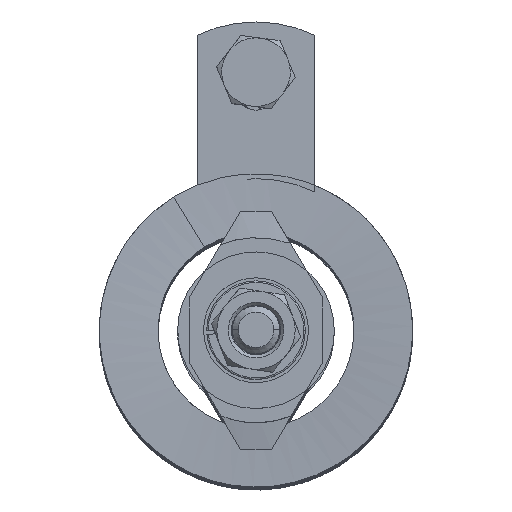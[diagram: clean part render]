
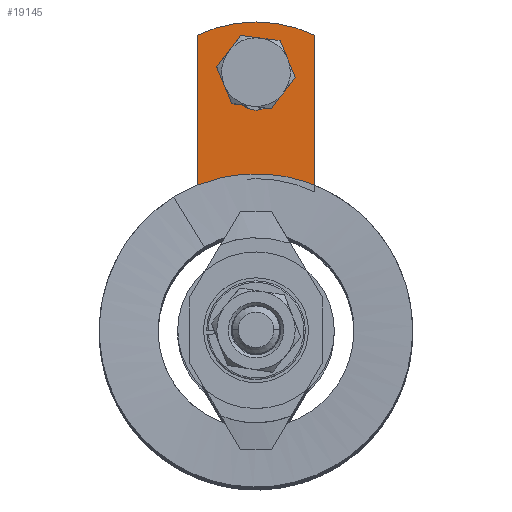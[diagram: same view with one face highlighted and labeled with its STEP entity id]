
A CAD part, top view. The second image highlights one B-rep face of the part: STEP entity #19145.
In plain terms, the highlighted planar face has unit normal (0, 0, 1).
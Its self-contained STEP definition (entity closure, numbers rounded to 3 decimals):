
#9021 = EDGE_LOOP ( 'NONE', ( #15793, #15791, #15789, #15884, #15876, #15878 ) ) ;
#15789 = ORIENTED_EDGE ( 'NONE', *, *, #75728, .T. ) ;
#15791 = ORIENTED_EDGE ( 'NONE', *, *, #75705, .T. ) ;
#15793 = ORIENTED_EDGE ( 'NONE', *, *, #75727, .T. ) ;
#15795 = ORIENTED_EDGE ( 'NONE', *, *, #75726, .T. ) ;
#15797 = ORIENTED_EDGE ( 'NONE', *, *, #75725, .T. ) ;
#15800 = ORIENTED_EDGE ( 'NONE', *, *, #75724, .T. ) ;
#15802 = ORIENTED_EDGE ( 'NONE', *, *, #75709, .T. ) ;
#15804 = ORIENTED_EDGE ( 'NONE', *, *, #75723, .T. ) ;
#15876 = ORIENTED_EDGE ( 'NONE', *, *, #75713, .T. ) ;
#15878 = ORIENTED_EDGE ( 'NONE', *, *, #75730, .T. ) ;
#15884 = ORIENTED_EDGE ( 'NONE', *, *, #75729, .T. ) ;
#19145 = ADVANCED_FACE ( 'NONE', ( #35283, #35303 ), #25104, .T. ) ;
#25100 = DIRECTION ( 'NONE',  ( 0., 0., 1. ) ) ;
#25102 = CARTESIAN_POINT ( 'NONE',  ( 0., 0., 0. ) ) ;
#25104 = PLANE ( 'NONE',  #108427 ) ;
#25106 = DIRECTION ( 'NONE',  ( 1., 0., 0. ) ) ;
#35283 = FACE_BOUND ( 'NONE', #54369, .T. ) ;
#35303 = FACE_OUTER_BOUND ( 'NONE', #9021, .T. ) ;
#36979 = CIRCLE ( 'NONE', #116777, 22.225 ) ;
#54369 = EDGE_LOOP ( 'NONE', ( #15804, #15802, #15800, #15797, #15795 ) ) ;
#71505 = CARTESIAN_POINT ( 'NONE',  ( -28.575, 0., 0. ) ) ;
#71506 = DIRECTION ( 'NONE',  ( 0., 0., -1. ) ) ;
#71507 = DIRECTION ( 'NONE',  ( 1., 0., 0. ) ) ;
#71515 = CARTESIAN_POINT ( 'NONE',  ( 10.914, 0., 0. ) ) ;
#71516 = DIRECTION ( 'NONE',  ( 0., 0., -1. ) ) ;
#71517 = DIRECTION ( 'NONE',  ( 1., 0., 0. ) ) ;
#71526 = CARTESIAN_POINT ( 'NONE',  ( -3.175, 0., 0. ) ) ;
#71527 = DIRECTION ( 'NONE',  ( 0., 0., 1. ) ) ;
#71528 = DIRECTION ( 'NONE',  ( 1., 0., 0. ) ) ;
#71541 = DIRECTION ( 'NONE',  ( 1., 0., 0. ) ) ;
#71546 = DIRECTION ( 'NONE',  ( -1., 0., 0. ) ) ;
#71547 = CARTESIAN_POINT ( 'NONE',  ( 0., -3.373, 0. ) ) ;
#71548 = CARTESIAN_POINT ( 'NONE',  ( 0., 3.373, 0. ) ) ;
#71552 = CARTESIAN_POINT ( 'NONE',  ( 19.05, 9.525, 0. ) ) ;
#71553 = DIRECTION ( 'NONE',  ( -1., 0., 0. ) ) ;
#71554 = CARTESIAN_POINT ( 'NONE',  ( 10.914, 0., 0. ) ) ;
#71555 = DIRECTION ( 'NONE',  ( 0., 0., -1. ) ) ;
#71556 = DIRECTION ( 'NONE',  ( 1., 0., 0. ) ) ;
#71557 = CARTESIAN_POINT ( 'NONE',  ( 19.05, -9.525, 0. ) ) ;
#71558 = DIRECTION ( 'NONE',  ( 1., 0., 0. ) ) ;
#71559 = CARTESIAN_POINT ( 'NONE',  ( 8.136, 0., 0. ) ) ;
#71560 = DIRECTION ( 'NONE',  ( 0., 0., -1. ) ) ;
#71561 = DIRECTION ( 'NONE',  ( 1., 0., 0. ) ) ;
#71564 = CARTESIAN_POINT ( 'NONE',  ( -28.575, 0., 0. ) ) ;
#71565 = DIRECTION ( 'NONE',  ( 0., 0., -1. ) ) ;
#71566 = DIRECTION ( 'NONE',  ( 1., 0., 0. ) ) ;
#71569 = CARTESIAN_POINT ( 'NONE',  ( -3.175, 0., 0. ) ) ;
#71570 = DIRECTION ( 'NONE',  ( 0., 0., 1. ) ) ;
#71571 = DIRECTION ( 'NONE',  ( 1., 0., 0. ) ) ;
#74133 = CIRCLE ( 'NONE', #116781, 3.373 ) ;
#74144 = CIRCLE ( 'NONE', #116786, 22.225 ) ;
#74172 = LINE ( 'NONE', #71548, #74182 ) ;
#74180 = CIRCLE ( 'NONE', #116798, 3.373 ) ;
#74182 = VECTOR ( 'NONE', #71541, 1000. ) ;
#74184 = LINE ( 'NONE', #71547, #74188 ) ;
#74186 = CIRCLE ( 'NONE', #116800, 3.373 ) ;
#74188 = VECTOR ( 'NONE', #71546, 1000. ) ;
#74191 = LINE ( 'NONE', #71552, #74195 ) ;
#74193 = CIRCLE ( 'NONE', #116802, 22.225 ) ;
#74195 = VECTOR ( 'NONE', #71553, 1000. ) ;
#74197 = LINE ( 'NONE', #71557, #74201 ) ;
#74199 = CIRCLE ( 'NONE', #116806, 22.225 ) ;
#74201 = VECTOR ( 'NONE', #71558, 1000. ) ;
#75705 = EDGE_CURVE ( 'NONE', #102686, #102689, #36979, .T. ) ;
#75709 = EDGE_CURVE ( 'NONE', #102698, #102711, #74133, .T. ) ;
#75713 = EDGE_CURVE ( 'NONE', #102741, #103342, #74144, .T. ) ;
#75723 = EDGE_CURVE ( 'NONE', #102798, #102698, #74172, .T. ) ;
#75724 = EDGE_CURVE ( 'NONE', #102711, #103212, #74180, .T. ) ;
#75725 = EDGE_CURVE ( 'NONE', #103212, #102786, #74184, .T. ) ;
#75726 = EDGE_CURVE ( 'NONE', #102786, #102798, #74186, .T. ) ;
#75727 = EDGE_CURVE ( 'NONE', #102747, #102686, #74191, .T. ) ;
#75728 = EDGE_CURVE ( 'NONE', #102689, #102806, #74193, .T. ) ;
#75729 = EDGE_CURVE ( 'NONE', #102806, #102741, #74197, .T. ) ;
#75730 = EDGE_CURVE ( 'NONE', #103342, #102747, #74199, .T. ) ;
#78473 = CARTESIAN_POINT ( 'NONE',  ( -8.495, 9.525, 0. ) ) ;
#78475 = CARTESIAN_POINT ( 'NONE',  ( -6.35, 0., 0. ) ) ;
#78481 = CARTESIAN_POINT ( 'NONE',  ( 10.914, 3.373, 0. ) ) ;
#78483 = CARTESIAN_POINT ( 'NONE',  ( 14.287, 0., 0. ) ) ;
#78495 = CARTESIAN_POINT ( 'NONE',  ( 16.905, -9.525, 0. ) ) ;
#78499 = CARTESIAN_POINT ( 'NONE',  ( 16.905, 9.525, 0. ) ) ;
#78505 = CARTESIAN_POINT ( 'NONE',  ( 8.136, -3.373, 0. ) ) ;
#78513 = CARTESIAN_POINT ( 'NONE',  ( 8.136, 3.373, 0. ) ) ;
#78517 = CARTESIAN_POINT ( 'NONE',  ( -8.495, -9.525, 0. ) ) ;
#78603 = CARTESIAN_POINT ( 'NONE',  ( 10.914, -3.373, 0. ) ) ;
#78651 = CARTESIAN_POINT ( 'NONE',  ( 19.05, 0., 0. ) ) ;
#102686 = VERTEX_POINT ( 'NONE', #78473 ) ;
#102689 = VERTEX_POINT ( 'NONE', #78475 ) ;
#102698 = VERTEX_POINT ( 'NONE', #78481 ) ;
#102711 = VERTEX_POINT ( 'NONE', #78483 ) ;
#102741 = VERTEX_POINT ( 'NONE', #78495 ) ;
#102747 = VERTEX_POINT ( 'NONE', #78499 ) ;
#102786 = VERTEX_POINT ( 'NONE', #78505 ) ;
#102798 = VERTEX_POINT ( 'NONE', #78513 ) ;
#102806 = VERTEX_POINT ( 'NONE', #78517 ) ;
#103212 = VERTEX_POINT ( 'NONE', #78603 ) ;
#103342 = VERTEX_POINT ( 'NONE', #78651 ) ;
#108427 = AXIS2_PLACEMENT_3D ( 'NONE', #25102, #25100, #25106 ) ;
#116777 = AXIS2_PLACEMENT_3D ( 'NONE', #71505, #71506, #71507 ) ;
#116781 = AXIS2_PLACEMENT_3D ( 'NONE', #71515, #71516, #71517 ) ;
#116786 = AXIS2_PLACEMENT_3D ( 'NONE', #71526, #71527, #71528 ) ;
#116798 = AXIS2_PLACEMENT_3D ( 'NONE', #71554, #71555, #71556 ) ;
#116800 = AXIS2_PLACEMENT_3D ( 'NONE', #71559, #71560, #71561 ) ;
#116802 = AXIS2_PLACEMENT_3D ( 'NONE', #71564, #71565, #71566 ) ;
#116806 = AXIS2_PLACEMENT_3D ( 'NONE', #71569, #71570, #71571 ) ;
